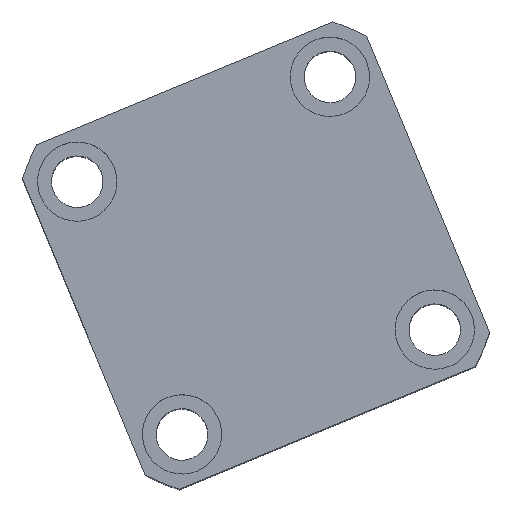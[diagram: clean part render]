
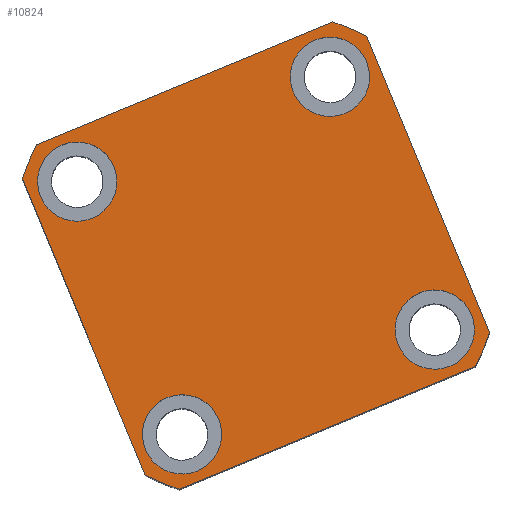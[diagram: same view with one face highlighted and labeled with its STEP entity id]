
A CAD part, top view. The second image highlights one B-rep face of the part: STEP entity #10824.
In plain terms, the highlighted planar face has unit normal (0, 0, 1) as drawn and (0, 0, -1) by its records, which use the part's own axes.
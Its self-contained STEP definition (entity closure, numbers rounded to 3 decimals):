
#335 = CARTESIAN_POINT ( 'NONE',  ( 34.5, -34.5, 0. ) ) ;
#363 = DIRECTION ( 'NONE',  ( 0., 0., 1. ) ) ;
#407 = CIRCLE ( 'NONE', #14071, 10. ) ;
#458 = DIRECTION ( 'NONE',  ( -1., 0., 0. ) ) ;
#586 = DIRECTION ( 'NONE',  ( 0., 0., -1. ) ) ;
#603 = VECTOR ( 'NONE', #14870, 1000. ) ;
#622 = ORIENTED_EDGE ( 'NONE', *, *, #16965, .F. ) ;
#626 = FACE_BOUND ( 'NONE', #10127, .T. ) ;
#827 = DIRECTION ( 'NONE',  ( 1., 0., 0. ) ) ;
#1108 = LINE ( 'NONE', #8038, #4773 ) ;
#1365 = CARTESIAN_POINT ( 'NONE',  ( -40.435, 47., 0. ) ) ;
#1440 = CIRCLE ( 'NONE', #5422, 10. ) ;
#1525 = CARTESIAN_POINT ( 'NONE',  ( 47., 40.435, 0. ) ) ;
#1712 = DIRECTION ( 'NONE',  ( -1., 0., 0. ) ) ;
#1867 = DIRECTION ( 'NONE',  ( 0., 0., -1. ) ) ;
#1930 = ORIENTED_EDGE ( 'NONE', *, *, #10221, .F. ) ;
#1931 = ORIENTED_EDGE ( 'NONE', *, *, #7706, .F. ) ;
#1967 = EDGE_CURVE ( 'NONE', #17602, #13812, #1440, .T. ) ;
#1994 = ORIENTED_EDGE ( 'NONE', *, *, #13208, .F. ) ;
#2078 = DIRECTION ( 'NONE',  ( 0., -1., 0. ) ) ;
#2459 = EDGE_CURVE ( 'NONE', #9673, #6924, #14211, .T. ) ;
#2534 = EDGE_CURVE ( 'NONE', #5541, #7968, #13762, .T. ) ;
#2612 = VECTOR ( 'NONE', #2078, 1000. ) ;
#2829 = ORIENTED_EDGE ( 'NONE', *, *, #13543, .F. ) ;
#3067 = CARTESIAN_POINT ( 'NONE',  ( -47., -40.435, 0. ) ) ;
#3127 = DIRECTION ( 'NONE',  ( 1., 0., 0. ) ) ;
#3181 = CARTESIAN_POINT ( 'NONE',  ( 34.5, -34.5, 0. ) ) ;
#3259 = DIRECTION ( 'NONE',  ( 0., 0., 1. ) ) ;
#3329 = DIRECTION ( 'NONE',  ( 1., 0., 0. ) ) ;
#3514 = ORIENTED_EDGE ( 'NONE', *, *, #12537, .F. ) ;
#3526 = VERTEX_POINT ( 'NONE', #11645 ) ;
#3646 = CIRCLE ( 'NONE', #15894, 62. ) ;
#3703 = CIRCLE ( 'NONE', #5030, 10. ) ;
#3824 = EDGE_CURVE ( 'NONE', #14841, #3526, #10960, .T. ) ;
#4239 = LINE ( 'NONE', #5332, #603 ) ;
#4259 = VERTEX_POINT ( 'NONE', #1525 ) ;
#4277 = ORIENTED_EDGE ( 'NONE', *, *, #2459, .F. ) ;
#4395 = EDGE_CURVE ( 'NONE', #5386, #9686, #14190, .T. ) ;
#4565 = DIRECTION ( 'NONE',  ( -1., 0., 0. ) ) ;
#4659 = DIRECTION ( 'NONE',  ( 0., 0., 1. ) ) ;
#4773 = VECTOR ( 'NONE', #7980, 1000. ) ;
#4830 = ORIENTED_EDGE ( 'NONE', *, *, #2534, .F. ) ;
#5030 = AXIS2_PLACEMENT_3D ( 'NONE', #3181, #12723, #4565 ) ;
#5332 = CARTESIAN_POINT ( 'NONE',  ( 47., 47., 0. ) ) ;
#5386 = VERTEX_POINT ( 'NONE', #8006 ) ;
#5422 = AXIS2_PLACEMENT_3D ( 'NONE', #8645, #586, #16638 ) ;
#5541 = VERTEX_POINT ( 'NONE', #1365 ) ;
#5594 = ORIENTED_EDGE ( 'NONE', *, *, #3824, .F. ) ;
#6052 = EDGE_CURVE ( 'NONE', #4259, #7791, #13310, .T. ) ;
#6285 = ORIENTED_EDGE ( 'NONE', *, *, #6052, .F. ) ;
#6289 = CARTESIAN_POINT ( 'NONE',  ( -34.5, -34.5, 0. ) ) ;
#6355 = DIRECTION ( 'NONE',  ( 0., 0., -1. ) ) ;
#6375 = DIRECTION ( 'NONE',  ( 0., 0., -1. ) ) ;
#6573 = CARTESIAN_POINT ( 'NONE',  ( 24.5, 34.5, 0. ) ) ;
#6608 = CARTESIAN_POINT ( 'NONE',  ( 0., 0., 0. ) ) ;
#6684 = DIRECTION ( 'NONE',  ( -1., 0., 0. ) ) ;
#6924 = VERTEX_POINT ( 'NONE', #15551 ) ;
#7118 = EDGE_CURVE ( 'NONE', #7968, #9673, #16709, .T. ) ;
#7183 = CARTESIAN_POINT ( 'NONE',  ( 0., 0., 0. ) ) ;
#7195 = CARTESIAN_POINT ( 'NONE',  ( -24.5, -34.5, 0. ) ) ;
#7262 = AXIS2_PLACEMENT_3D ( 'NONE', #7183, #363, #3127 ) ;
#7303 = CARTESIAN_POINT ( 'NONE',  ( 40.435, 47., 0. ) ) ;
#7453 = CARTESIAN_POINT ( 'NONE',  ( -47., 47., 0. ) ) ;
#7622 = CARTESIAN_POINT ( 'NONE',  ( -24.5, 34.5, 0. ) ) ;
#7653 = DIRECTION ( 'NONE',  ( -1., 0., 0. ) ) ;
#7706 = EDGE_CURVE ( 'NONE', #9686, #5386, #3703, .T. ) ;
#7791 = VERTEX_POINT ( 'NONE', #7303 ) ;
#7968 = VERTEX_POINT ( 'NONE', #17093 ) ;
#7974 = DIRECTION ( 'NONE',  ( 0., 0., 1. ) ) ;
#7980 = DIRECTION ( 'NONE',  ( 1., 0., 0. ) ) ;
#8006 = CARTESIAN_POINT ( 'NONE',  ( 44.5, -34.5, 0. ) ) ;
#8038 = CARTESIAN_POINT ( 'NONE',  ( -47., -47., 0. ) ) ;
#8369 = EDGE_LOOP ( 'NONE', ( #9265, #14567 ) ) ;
#8643 = DIRECTION ( 'NONE',  ( 0., 0., -1. ) ) ;
#8645 = CARTESIAN_POINT ( 'NONE',  ( 34.5, 34.5, 0. ) ) ;
#8679 = CARTESIAN_POINT ( 'NONE',  ( 0., 0., 0. ) ) ;
#8847 = VERTEX_POINT ( 'NONE', #9350 ) ;
#8889 = AXIS2_PLACEMENT_3D ( 'NONE', #335, #9893, #1712 ) ;
#8935 = CIRCLE ( 'NONE', #11260, 10. ) ;
#8943 = CARTESIAN_POINT ( 'NONE',  ( 44.5, 34.5, 0. ) ) ;
#9003 = DIRECTION ( 'NONE',  ( 0., 0., 1. ) ) ;
#9265 = ORIENTED_EDGE ( 'NONE', *, *, #10051, .F. ) ;
#9350 = CARTESIAN_POINT ( 'NONE',  ( -44.5, 34.5, 0. ) ) ;
#9673 = VERTEX_POINT ( 'NONE', #3067 ) ;
#9686 = VERTEX_POINT ( 'NONE', #12611 ) ;
#9893 = DIRECTION ( 'NONE',  ( 0., 0., -1. ) ) ;
#10051 = EDGE_CURVE ( 'NONE', #8847, #12233, #407, .T. ) ;
#10059 = CARTESIAN_POINT ( 'NONE',  ( 34.5, 34.5, 0. ) ) ;
#10127 = EDGE_LOOP ( 'NONE', ( #1994, #5594 ) ) ;
#10221 = EDGE_CURVE ( 'NONE', #16943, #12743, #3646, .T. ) ;
#10317 = AXIS2_PLACEMENT_3D ( 'NONE', #10059, #1867, #11409 ) ;
#10370 = ORIENTED_EDGE ( 'NONE', *, *, #1967, .F. ) ;
#10600 = PLANE ( 'NONE',  #10959 ) ;
#10824 = ADVANCED_FACE ( 'NONE', ( #11509, #626, #11936, #14720, #11063 ), #10600, .F. ) ;
#10959 = AXIS2_PLACEMENT_3D ( 'NONE', #6608, #7974, #17534 ) ;
#10960 = CIRCLE ( 'NONE', #11956, 10. ) ;
#11063 = FACE_OUTER_BOUND ( 'NONE', #14324, .T. ) ;
#11260 = AXIS2_PLACEMENT_3D ( 'NONE', #14515, #6355, #15877 ) ;
#11287 = CARTESIAN_POINT ( 'NONE',  ( 40.435, -47., 0. ) ) ;
#11350 = CIRCLE ( 'NONE', #10317, 10. ) ;
#11409 = DIRECTION ( 'NONE',  ( -1., 0., 0. ) ) ;
#11509 = FACE_BOUND ( 'NONE', #12255, .T. ) ;
#11645 = CARTESIAN_POINT ( 'NONE',  ( -44.5, -34.5, 0. ) ) ;
#11700 = LINE ( 'NONE', #16225, #14893 ) ;
#11936 = FACE_BOUND ( 'NONE', #8369, .T. ) ;
#11956 = AXIS2_PLACEMENT_3D ( 'NONE', #6289, #15818, #7653 ) ;
#12063 = ORIENTED_EDGE ( 'NONE', *, *, #7118, .F. ) ;
#12233 = VERTEX_POINT ( 'NONE', #7622 ) ;
#12255 = EDGE_LOOP ( 'NONE', ( #1931, #16481 ) ) ;
#12272 = EDGE_CURVE ( 'NONE', #12233, #8847, #12338, .T. ) ;
#12338 = CIRCLE ( 'NONE', #16185, 10. ) ;
#12403 = CARTESIAN_POINT ( 'NONE',  ( 47., -40.435, 0. ) ) ;
#12537 = EDGE_CURVE ( 'NONE', #12743, #4259, #4239, .T. ) ;
#12611 = CARTESIAN_POINT ( 'NONE',  ( 24.5, -34.5, 0. ) ) ;
#12723 = DIRECTION ( 'NONE',  ( 0., 0., -1. ) ) ;
#12743 = VERTEX_POINT ( 'NONE', #12403 ) ;
#12746 = AXIS2_PLACEMENT_3D ( 'NONE', #8679, #3259, #3329 ) ;
#12819 = CARTESIAN_POINT ( 'NONE',  ( 0., 0., 0. ) ) ;
#13208 = EDGE_CURVE ( 'NONE', #3526, #14841, #8935, .T. ) ;
#13310 = CIRCLE ( 'NONE', #13679, 62. ) ;
#13543 = EDGE_CURVE ( 'NONE', #7791, #5541, #11700, .T. ) ;
#13679 = AXIS2_PLACEMENT_3D ( 'NONE', #17197, #9003, #827 ) ;
#13762 = CIRCLE ( 'NONE', #12746, 62. ) ;
#13812 = VERTEX_POINT ( 'NONE', #8943 ) ;
#14071 = AXIS2_PLACEMENT_3D ( 'NONE', #16836, #8643, #458 ) ;
#14190 = CIRCLE ( 'NONE', #8889, 10. ) ;
#14203 = DIRECTION ( 'NONE',  ( 1., 0., 0. ) ) ;
#14211 = CIRCLE ( 'NONE', #7262, 62. ) ;
#14324 = EDGE_LOOP ( 'NONE', ( #6285, #3514, #1930, #16504, #4277, #12063, #4830, #2829 ) ) ;
#14515 = CARTESIAN_POINT ( 'NONE',  ( -34.5, -34.5, 0. ) ) ;
#14533 = CARTESIAN_POINT ( 'NONE',  ( -34.5, 34.5, 0. ) ) ;
#14567 = ORIENTED_EDGE ( 'NONE', *, *, #12272, .F. ) ;
#14720 = FACE_BOUND ( 'NONE', #15644, .T. ) ;
#14841 = VERTEX_POINT ( 'NONE', #7195 ) ;
#14870 = DIRECTION ( 'NONE',  ( 0., 1., 0. ) ) ;
#14893 = VECTOR ( 'NONE', #6684, 1000. ) ;
#15551 = CARTESIAN_POINT ( 'NONE',  ( -40.435, -47., 0. ) ) ;
#15644 = EDGE_LOOP ( 'NONE', ( #10370, #622 ) ) ;
#15818 = DIRECTION ( 'NONE',  ( 0., 0., -1. ) ) ;
#15877 = DIRECTION ( 'NONE',  ( -1., 0., 0. ) ) ;
#15894 = AXIS2_PLACEMENT_3D ( 'NONE', #12819, #4659, #14203 ) ;
#15902 = DIRECTION ( 'NONE',  ( -1., 0., 0. ) ) ;
#16185 = AXIS2_PLACEMENT_3D ( 'NONE', #14533, #6375, #15902 ) ;
#16225 = CARTESIAN_POINT ( 'NONE',  ( -47., 47., 0. ) ) ;
#16408 = EDGE_CURVE ( 'NONE', #6924, #16943, #1108, .T. ) ;
#16481 = ORIENTED_EDGE ( 'NONE', *, *, #4395, .F. ) ;
#16504 = ORIENTED_EDGE ( 'NONE', *, *, #16408, .F. ) ;
#16638 = DIRECTION ( 'NONE',  ( -1., 0., 0. ) ) ;
#16709 = LINE ( 'NONE', #7453, #2612 ) ;
#16836 = CARTESIAN_POINT ( 'NONE',  ( -34.5, 34.5, 0. ) ) ;
#16943 = VERTEX_POINT ( 'NONE', #11287 ) ;
#16965 = EDGE_CURVE ( 'NONE', #13812, #17602, #11350, .T. ) ;
#17093 = CARTESIAN_POINT ( 'NONE',  ( -47., 40.435, 0. ) ) ;
#17197 = CARTESIAN_POINT ( 'NONE',  ( 0., 0., 0. ) ) ;
#17534 = DIRECTION ( 'NONE',  ( 1., 0., 0. ) ) ;
#17602 = VERTEX_POINT ( 'NONE', #6573 ) ;
